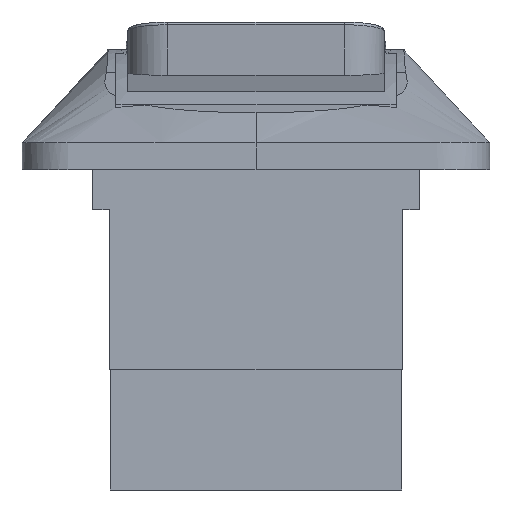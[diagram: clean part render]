
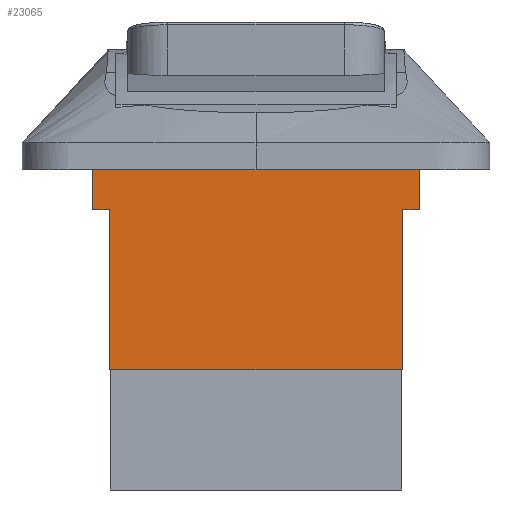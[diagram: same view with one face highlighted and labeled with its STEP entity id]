
A CAD part, front view. The second image highlights one B-rep face of the part: STEP entity #23065.
In plain terms, the highlighted planar face has unit normal (0, -1, -0.005).
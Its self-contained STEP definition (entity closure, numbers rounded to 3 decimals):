
#74 = LINE ( 'NONE', #3672, #12165 ) ;
#107 = DIRECTION ( 'NONE',  ( 0., 0.005, -1. ) ) ;
#881 = EDGE_CURVE ( 'NONE', #9479, #6528, #12768, .T. ) ;
#897 = CARTESIAN_POINT ( 'NONE',  ( 12.25, -73.725, -9. ) ) ;
#1024 = ORIENTED_EDGE ( 'NONE', *, *, #5479, .F. ) ;
#1092 = PLANE ( 'NONE',  #4661 ) ;
#1403 = VECTOR ( 'NONE', #107, 1000. ) ;
#1543 = EDGE_CURVE ( 'NONE', #22138, #12756, #14695, .T. ) ;
#1673 = CARTESIAN_POINT ( 'NONE',  ( -10.936, -73.65, -24. ) ) ;
#1925 = LINE ( 'NONE', #10450, #11455 ) ;
#2283 = VECTOR ( 'NONE', #17415, 1000. ) ;
#2660 = ORIENTED_EDGE ( 'NONE', *, *, #881, .F. ) ;
#2686 = CARTESIAN_POINT ( 'NONE',  ( -12.25, -73.725, -9. ) ) ;
#2958 = CARTESIAN_POINT ( 'NONE',  ( -12.25, -73.75, -4. ) ) ;
#3299 = CARTESIAN_POINT ( 'NONE',  ( 12.25, -73.71, -12. ) ) ;
#3644 = VECTOR ( 'NONE', #15038, 1000. ) ;
#3672 = CARTESIAN_POINT ( 'NONE',  ( 17.5, -73.725, -9. ) ) ;
#4661 = AXIS2_PLACEMENT_3D ( 'NONE', #2958, #13643, #17481 ) ;
#4780 = CARTESIAN_POINT ( 'NONE',  ( -12.25, -73.725, -9. ) ) ;
#4815 = CARTESIAN_POINT ( 'NONE',  ( 10.984, -73.71, -12. ) ) ;
#5215 = VERTEX_POINT ( 'NONE', #4815 ) ;
#5376 = EDGE_CURVE ( 'NONE', #6201, #9693, #7558, .T. ) ;
#5479 = EDGE_CURVE ( 'NONE', #5215, #22138, #6124, .T. ) ;
#6006 = CARTESIAN_POINT ( 'NONE',  ( -12.25, -73.71, -12. ) ) ;
#6124 = LINE ( 'NONE', #21609, #3644 ) ;
#6201 = VERTEX_POINT ( 'NONE', #897 ) ;
#6205 = VERTEX_POINT ( 'NONE', #2686 ) ;
#6266 = VECTOR ( 'NONE', #10549, 1000. ) ;
#6528 = VERTEX_POINT ( 'NONE', #6006 ) ;
#6671 = EDGE_CURVE ( 'NONE', #9479, #12756, #1925, .T. ) ;
#7558 = LINE ( 'NONE', #10854, #1403 ) ;
#7710 = LINE ( 'NONE', #3299, #18111 ) ;
#8411 = DIRECTION ( 'NONE',  ( 1., 0., 0. ) ) ;
#9260 = EDGE_LOOP ( 'NONE', ( #19904, #1024, #15702, #17917, #17954, #11689, #2660, #21716 ) ) ;
#9479 = VERTEX_POINT ( 'NONE', #16522 ) ;
#9693 = VERTEX_POINT ( 'NONE', #18722 ) ;
#10450 = CARTESIAN_POINT ( 'NONE',  ( -10.984, -73.71, -12. ) ) ;
#10549 = DIRECTION ( 'NONE',  ( -1., 0., 0. ) ) ;
#10747 = LINE ( 'NONE', #4780, #2283 ) ;
#10812 = VECTOR ( 'NONE', #23132, 1000. ) ;
#10854 = CARTESIAN_POINT ( 'NONE',  ( 12.25, -73.75, -4. ) ) ;
#11455 = VECTOR ( 'NONE', #22970, 1000. ) ;
#11689 = ORIENTED_EDGE ( 'NONE', *, *, #16261, .T. ) ;
#12165 = VECTOR ( 'NONE', #18039, 1000. ) ;
#12756 = VERTEX_POINT ( 'NONE', #1673 ) ;
#12768 = LINE ( 'NONE', #21369, #10812 ) ;
#13643 = DIRECTION ( 'NONE',  ( 0., 1., 0.005 ) ) ;
#14009 = CARTESIAN_POINT ( 'NONE',  ( -12.25, -73.65, -24. ) ) ;
#14695 = LINE ( 'NONE', #14009, #6266 ) ;
#15038 = DIRECTION ( 'NONE',  ( -0.004, 0.005, -1. ) ) ;
#15702 = ORIENTED_EDGE ( 'NONE', *, *, #21329, .T. ) ;
#16261 = EDGE_CURVE ( 'NONE', #6205, #6528, #10747, .T. ) ;
#16519 = EDGE_CURVE ( 'NONE', #6201, #6205, #74, .T. ) ;
#16522 = CARTESIAN_POINT ( 'NONE',  ( -10.984, -73.71, -12. ) ) ;
#17415 = DIRECTION ( 'NONE',  ( 0., 0.005, -1. ) ) ;
#17481 = DIRECTION ( 'NONE',  ( 0., 0.005, -1. ) ) ;
#17917 = ORIENTED_EDGE ( 'NONE', *, *, #5376, .F. ) ;
#17954 = ORIENTED_EDGE ( 'NONE', *, *, #16519, .T. ) ;
#18039 = DIRECTION ( 'NONE',  ( -1., 0., 0. ) ) ;
#18111 = VECTOR ( 'NONE', #8411, 1000. ) ;
#18451 = FACE_OUTER_BOUND ( 'NONE', #9260, .T. ) ;
#18722 = CARTESIAN_POINT ( 'NONE',  ( 12.25, -73.71, -12. ) ) ;
#19904 = ORIENTED_EDGE ( 'NONE', *, *, #1543, .F. ) ;
#21329 = EDGE_CURVE ( 'NONE', #5215, #9693, #7710, .T. ) ;
#21369 = CARTESIAN_POINT ( 'NONE',  ( -12.25, -73.71, -12. ) ) ;
#21609 = CARTESIAN_POINT ( 'NONE',  ( 10.984, -73.71, -12. ) ) ;
#21669 = CARTESIAN_POINT ( 'NONE',  ( 10.936, -73.65, -24. ) ) ;
#21716 = ORIENTED_EDGE ( 'NONE', *, *, #6671, .T. ) ;
#22138 = VERTEX_POINT ( 'NONE', #21669 ) ;
#22970 = DIRECTION ( 'NONE',  ( 0.004, 0.005, -1. ) ) ;
#23065 = ADVANCED_FACE ( 'NONE', ( #18451 ), #1092, .F. ) ;
#23132 = DIRECTION ( 'NONE',  ( -1., 0., 0. ) ) ;
